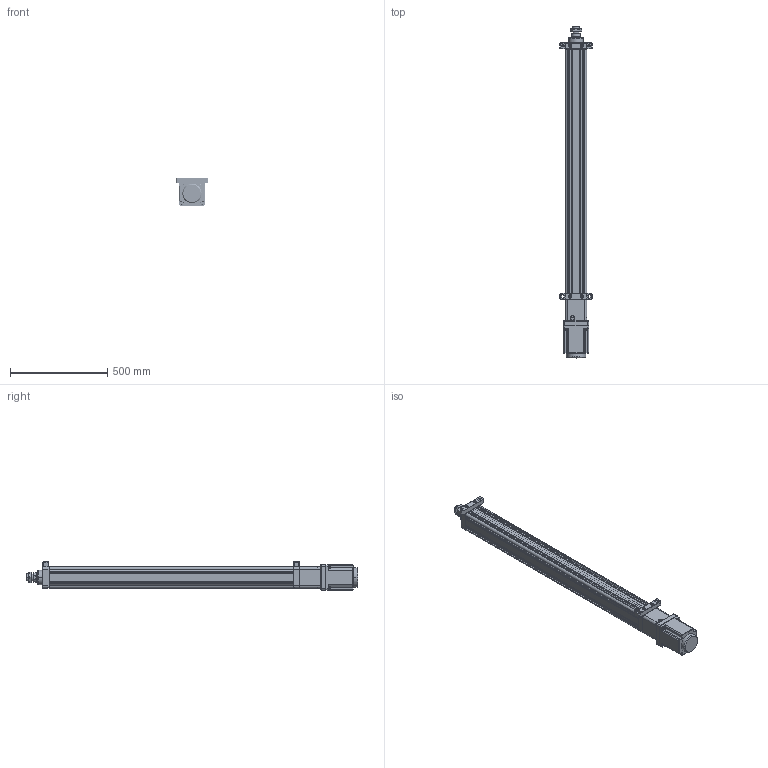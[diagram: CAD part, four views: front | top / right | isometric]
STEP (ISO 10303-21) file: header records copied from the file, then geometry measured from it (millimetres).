
FILE_DESCRIPTION((''),'2;1');
FILE_NAME('HE100-D-P_ASM','2020-05-06T',('ASUS20200'),(''),'CREO PARAMETRIC BY PTC INC, 2014190','CREO PARAMETRIC BY PTC INC, 2014190','');
FILE_SCHEMA(('CONFIG_CONTROL_DESIGN'));
Products named in the file (40): HE100-D-P-001-X1; HE100-D-P-002-X1; HE100-D-P-003-X1; 30305J; SFNHR03205B1-001-X1; SFNHR03205B1-002-X1; SFNHR03205B1-ST_ASM; HE100-D-P-004-X1; HE100-D-P-006-X1; HE100-D-P-007-X2; HE100-D-P-007-X1-2; M3X8-PB; HE100-D-P-HST_ASM; HE100-D-P-005-X1; TD-8; M8X30; LGLM-M10-25; K-M25X1-5P-36; JX6X6X30; JDB506030; HE80-D-P-008-X1; SLM-01; YZ-M6X1; HE100-GT2535-17; HE100-100-D-P-X1_ASM; HE100-D-009-X1; GFC-55-78-16K5; GFC-55-78-LJT; GFC-55-78-22K6; GFC-55-78-16K5-22K6_ASM; HE100-D-010-X1-130N; M8X20; 130ST-M10010; M8X40; SKT-20; HE100-P-015-X1; HE100-D-016-X1; TD-10; M10X35; HE100-D-P_ASM
Assembly tree (78 placements, depth 4):
  HE100-D-P_ASM
    HE100-100-D-P-X1_ASM
      HE100-D-P-001-X1
      HE100-D-P-002-X1
      HE100-D-P-003-X1
      30305J  x2
      SFNHR03205B1-ST_ASM
        SFNHR03205B1-001-X1
        SFNHR03205B1-002-X1
      HE100-D-P-HST_ASM
        HE100-D-P-004-X1
        HE100-D-P-006-X1
        HE100-D-P-007-X2
        HE100-D-P-007-X1-2
        M3X8-PB  x5
      HE100-D-P-005-X1
      TD-8  x6
      M8X30  x6
      LGLM-M10-25  x8
      K-M25X1-5P-36
      JX6X6X30
      JDB506030
      HE80-D-P-008-X1
      SLM-01
      YZ-M6X1
      HE100-GT2535-17
    HE100-D-009-X1
    GFC-55-78-16K5-22K6_ASM
      GFC-55-78-16K5
      GFC-55-78-LJT
      GFC-55-78-22K6
    HE100-D-010-X1-130N
    M8X20  x4
    130ST-M10010
    TD-8  x4
    M8X40  x4
    SKT-20  x2
    HE100-P-015-X1
    HE100-D-016-X1
    TD-10  x4
    M10X35  x4
Bounding box: 165 x 1711 x 145 mm (x, y, z)
Volume: 10606718 mm3; surface area: 2683856.2 mm2
Topology: 74 solids, 125 shells, 3317 faces, 7794 edges, 4750 vertices
Faces by surface type: plane 1097, cylinder 1023, cone 810, torus 262, sphere 90, bspline 35
Entity records: 81731 total; most frequent: CARTESIAN_POINT 22531, DIRECTION 13012, ORIENTED_EDGE 11460, EDGE_CURVE 5822, AXIS2_PLACEMENT_3D 5101, VERTEX_POINT 3556, EDGE_LOOP 2842, VECTOR 2810
